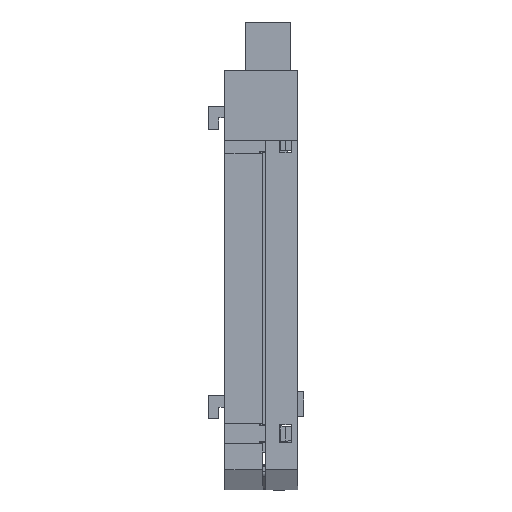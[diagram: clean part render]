
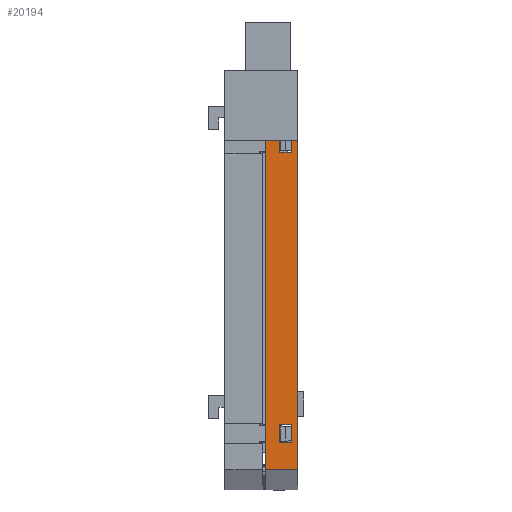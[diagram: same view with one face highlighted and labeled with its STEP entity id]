
A CAD part, front view. The second image highlights one B-rep face of the part: STEP entity #20194.
In plain terms, the highlighted planar face has unit normal (0, -1, 0).
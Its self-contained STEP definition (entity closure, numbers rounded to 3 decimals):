
#209 = DIRECTION ( 'NONE',  ( 0., 0., 1. ) ) ;
#328 = ORIENTED_EDGE ( 'NONE', *, *, #6886, .T. ) ;
#362 = VERTEX_POINT ( 'NONE', #32295 ) ;
#434 = CARTESIAN_POINT ( 'NONE',  ( 2.4, 0., -10.945 ) ) ;
#755 = CARTESIAN_POINT ( 'NONE',  ( 4.4, 0., -10.945 ) ) ;
#1560 = VECTOR ( 'NONE', #5895, 1000. ) ;
#1620 = LINE ( 'NONE', #5134, #27912 ) ;
#2838 = CARTESIAN_POINT ( 'NONE',  ( 0., 0., 0. ) ) ;
#3007 = VECTOR ( 'NONE', #21071, 1000. ) ;
#3190 = CARTESIAN_POINT ( 'NONE',  ( 4.4, 0., -10.945 ) ) ;
#3235 = VECTOR ( 'NONE', #209, 1000. ) ;
#4584 = CARTESIAN_POINT ( 'NONE',  ( 2.4, 0., -57.545 ) ) ;
#4735 = EDGE_CURVE ( 'NONE', #25119, #24883, #8425, .T. ) ;
#4747 = ORIENTED_EDGE ( 'NONE', *, *, #24333, .F. ) ;
#4781 = ORIENTED_EDGE ( 'NONE', *, *, #14990, .F. ) ;
#4990 = LINE ( 'NONE', #18563, #17729 ) ;
#5134 = CARTESIAN_POINT ( 'NONE',  ( 4.4, 0., -60.645 ) ) ;
#5157 = CARTESIAN_POINT ( 'NONE',  ( 4.4, 0., -7.845 ) ) ;
#5446 = CARTESIAN_POINT ( 'NONE',  ( 0., 0., -65.25 ) ) ;
#5894 = CARTESIAN_POINT ( 'NONE',  ( 4.4, 0., -60.645 ) ) ;
#5895 = DIRECTION ( 'NONE',  ( 0., 0., -1. ) ) ;
#6511 = VERTEX_POINT ( 'NONE', #4584 ) ;
#6591 = EDGE_LOOP ( 'NONE', ( #8399, #15803, #15942, #27246 ) ) ;
#6886 = EDGE_CURVE ( 'NONE', #10336, #6511, #25978, .T. ) ;
#7096 = CARTESIAN_POINT ( 'NONE',  ( 0., 0., 0. ) ) ;
#7199 = DIRECTION ( 'NONE',  ( -1., 0., 0. ) ) ;
#7637 = VERTEX_POINT ( 'NONE', #3190 ) ;
#7727 = CARTESIAN_POINT ( 'NONE',  ( 2.4, 0., -60.645 ) ) ;
#7944 = DIRECTION ( 'NONE',  ( 0., 0., -1. ) ) ;
#8135 = VECTOR ( 'NONE', #7944, 1000. ) ;
#8399 = ORIENTED_EDGE ( 'NONE', *, *, #8742, .T. ) ;
#8425 = LINE ( 'NONE', #22345, #21158 ) ;
#8742 = EDGE_CURVE ( 'NONE', #8830, #17947, #30317, .T. ) ;
#8830 = VERTEX_POINT ( 'NONE', #434 ) ;
#10336 = VERTEX_POINT ( 'NONE', #7727 ) ;
#10476 = PLANE ( 'NONE',  #14851 ) ;
#10634 = FACE_BOUND ( 'NONE', #6591, .T. ) ;
#11483 = ORIENTED_EDGE ( 'NONE', *, *, #22237, .T. ) ;
#12209 = LINE ( 'NONE', #28025, #18155 ) ;
#12333 = EDGE_CURVE ( 'NONE', #21680, #15012, #1620, .T. ) ;
#12707 = CARTESIAN_POINT ( 'NONE',  ( 2.4, 0., -10.945 ) ) ;
#12732 = EDGE_CURVE ( 'NONE', #15012, #10336, #26645, .T. ) ;
#13511 = CARTESIAN_POINT ( 'NONE',  ( 2.4, 0., -10.945 ) ) ;
#14146 = ORIENTED_EDGE ( 'NONE', *, *, #12333, .T. ) ;
#14153 = EDGE_CURVE ( 'NONE', #17947, #30154, #15442, .T. ) ;
#14851 = AXIS2_PLACEMENT_3D ( 'NONE', #28249, #30835, #15590 ) ;
#14990 = EDGE_CURVE ( 'NONE', #25119, #362, #4990, .T. ) ;
#15012 = VERTEX_POINT ( 'NONE', #5894 ) ;
#15442 = LINE ( 'NONE', #24960, #21397 ) ;
#15590 = DIRECTION ( 'NONE',  ( 0., 0., 1. ) ) ;
#15803 = ORIENTED_EDGE ( 'NONE', *, *, #14153, .T. ) ;
#15842 = DIRECTION ( 'NONE',  ( 0., 0., -1. ) ) ;
#15942 = ORIENTED_EDGE ( 'NONE', *, *, #29131, .T. ) ;
#16033 = DIRECTION ( 'NONE',  ( 0., 0., -1. ) ) ;
#17729 = VECTOR ( 'NONE', #16033, 1000. ) ;
#17787 = ORIENTED_EDGE ( 'NONE', *, *, #20158, .T. ) ;
#17947 = VERTEX_POINT ( 'NONE', #27385 ) ;
#18155 = VECTOR ( 'NONE', #30730, 1000. ) ;
#18429 = CARTESIAN_POINT ( 'NONE',  ( 5.5, 0., 0. ) ) ;
#18563 = CARTESIAN_POINT ( 'NONE',  ( 5.5, 0., 0. ) ) ;
#19221 = CARTESIAN_POINT ( 'NONE',  ( 2.4, 0., -60.645 ) ) ;
#19222 = VECTOR ( 'NONE', #27579, 1000. ) ;
#19542 = LINE ( 'NONE', #24719, #26294 ) ;
#19905 = CARTESIAN_POINT ( 'NONE',  ( 2.4, 0., -60.645 ) ) ;
#20158 = EDGE_CURVE ( 'NONE', #6511, #21680, #12209, .T. ) ;
#20194 = ADVANCED_FACE ( 'NONE', ( #10634, #24155, #25724 ), #10476, .F. ) ;
#21071 = DIRECTION ( 'NONE',  ( -1., 0., 0. ) ) ;
#21158 = VECTOR ( 'NONE', #7199, 1000. ) ;
#21273 = EDGE_LOOP ( 'NONE', ( #11483, #4747, #4781, #30076 ) ) ;
#21397 = VECTOR ( 'NONE', #27522, 1000. ) ;
#21680 = VERTEX_POINT ( 'NONE', #31139 ) ;
#21793 = DIRECTION ( 'NONE',  ( -1., 0., 0. ) ) ;
#21879 = LINE ( 'NONE', #755, #1560 ) ;
#22237 = EDGE_CURVE ( 'NONE', #24883, #28252, #28451, .T. ) ;
#22345 = CARTESIAN_POINT ( 'NONE',  ( 5.5, 0., 0. ) ) ;
#23330 = EDGE_LOOP ( 'NONE', ( #24239, #328, #17787, #14146 ) ) ;
#24155 = FACE_BOUND ( 'NONE', #23330, .T. ) ;
#24239 = ORIENTED_EDGE ( 'NONE', *, *, #12732, .T. ) ;
#24333 = EDGE_CURVE ( 'NONE', #362, #28252, #19542, .T. ) ;
#24606 = DIRECTION ( 'NONE',  ( -1., 0., 0. ) ) ;
#24719 = CARTESIAN_POINT ( 'NONE',  ( 5.5, 0., -65.25 ) ) ;
#24883 = VERTEX_POINT ( 'NONE', #7096 ) ;
#24960 = CARTESIAN_POINT ( 'NONE',  ( 2.4, 0., -7.845 ) ) ;
#25119 = VERTEX_POINT ( 'NONE', #18429 ) ;
#25679 = EDGE_CURVE ( 'NONE', #7637, #8830, #28483, .T. ) ;
#25724 = FACE_OUTER_BOUND ( 'NONE', #21273, .T. ) ;
#25836 = VECTOR ( 'NONE', #21793, 1000. ) ;
#25978 = LINE ( 'NONE', #19905, #19222 ) ;
#26294 = VECTOR ( 'NONE', #24606, 1000. ) ;
#26645 = LINE ( 'NONE', #19221, #25836 ) ;
#27246 = ORIENTED_EDGE ( 'NONE', *, *, #25679, .T. ) ;
#27385 = CARTESIAN_POINT ( 'NONE',  ( 2.4, 0., -7.845 ) ) ;
#27522 = DIRECTION ( 'NONE',  ( 1., 0., 0. ) ) ;
#27579 = DIRECTION ( 'NONE',  ( 0., 0., 1. ) ) ;
#27912 = VECTOR ( 'NONE', #15842, 1000. ) ;
#28025 = CARTESIAN_POINT ( 'NONE',  ( 2.4, 0., -57.545 ) ) ;
#28249 = CARTESIAN_POINT ( 'NONE',  ( 5.5, 0., 0. ) ) ;
#28252 = VERTEX_POINT ( 'NONE', #5446 ) ;
#28451 = LINE ( 'NONE', #2838, #8135 ) ;
#28483 = LINE ( 'NONE', #13511, #3007 ) ;
#29131 = EDGE_CURVE ( 'NONE', #30154, #7637, #21879, .T. ) ;
#30076 = ORIENTED_EDGE ( 'NONE', *, *, #4735, .T. ) ;
#30154 = VERTEX_POINT ( 'NONE', #5157 ) ;
#30317 = LINE ( 'NONE', #12707, #3235 ) ;
#30730 = DIRECTION ( 'NONE',  ( 1., 0., 0. ) ) ;
#30835 = DIRECTION ( 'NONE',  ( 0., 1., 0. ) ) ;
#31139 = CARTESIAN_POINT ( 'NONE',  ( 4.4, 0., -57.545 ) ) ;
#32295 = CARTESIAN_POINT ( 'NONE',  ( 5.5, 0., -65.25 ) ) ;
